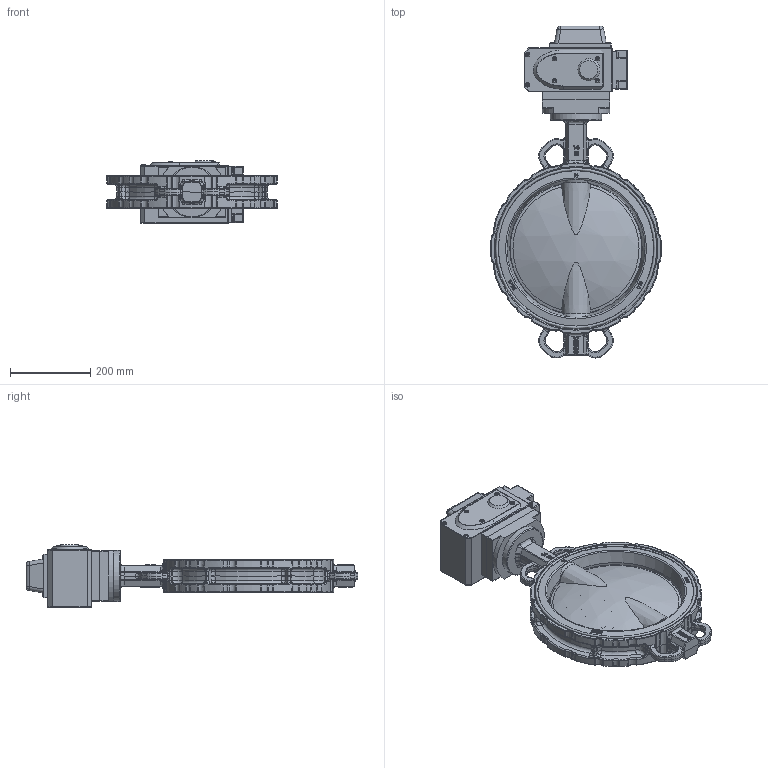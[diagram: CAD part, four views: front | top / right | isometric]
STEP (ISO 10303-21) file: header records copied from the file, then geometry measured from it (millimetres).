
FILE_DESCRIPTION(/* description */ (''),/* implementation_level */ '2;1');
FILE_NAME(/* name */ 'RSV81A220_380-DN350.stp',/* time_stamp */ '2024-08-20T14:07:37+07:00',/* author */ ('Eva'),/* organization */ (''),/* preprocessor_version */ 'ST-DEVELOPER v20',/* originating_system */ 'Autodesk Inventor 2025',/* authorisation */ '');
FILE_SCHEMA (('AUTOMOTIVE_DESIGN { 1 0 10303 214 3 1 1 }'));
Products named in the file (26): RSV81A220_380-DN350; AРН14; DN350·§Чщ; DN350·§°е2; Рѕ°ф; DN350·§°еНј; ЦчЅо1; ЦчЅо2; ЦчЅо3; ІаЦчЅо1; ІаЦчЅо1_1; ЦчЅо4; ЦчЅо5; ё±Ѕо1; ё±Ѕо2; ё±Ѕо3; ё±Ѕо4; ё±Ѕо5; Бгјю25; ЦРЦчЅо; ЦРЦчЅо_1; ЦчЅо6; ё±Ѕо7; ё±Ѕо7_1; ё±Ѕо8; ѕ«РЎРНµзЧ°
Assembly tree (26 placements, depth 3):
  RSV81A220_380-DN350
    AРН14
    DN350·§Чщ
    DN350·§°е2
      DN350·§°еНј  x2
      Рѕ°ф
      ЦчЅо1
      ЦчЅо2
      ЦчЅо3
      ІаЦчЅо1
      ІаЦчЅо1_1
      ЦчЅо4
      ЦчЅо5
      ё±Ѕо1
      ё±Ѕо2
      ё±Ѕо3
      ё±Ѕо4
      ё±Ѕо5
      Бгјю25
      ЦРЦчЅо
      ЦРЦчЅо_1
      ЦчЅо6
      ё±Ѕо7
      ё±Ѕо7_1
      ё±Ѕо8
    ѕ«РЎРНµзЧ°
Bounding box: 425.07 x 825.74 x 156 mm (x, y, z)
Volume: 11868314.1 mm3; surface area: 1794269.7 mm2
Topology: 25 solids, 25 shells, 2671 faces, 6403 edges, 3747 vertices
Faces by surface type: bspline 788, plane 736, cylinder 473, torus 335, cone 233, sphere 106
Full cylindrical faces by diameter (mm): 11.037 x4, 11.059 x6, 11.745 x4, 31.7 x1, 32 x6, 35.1 x1, 42 x1, 50 x13, 127 x1, 354 x2, 386 x2
Entity records: 155034 total; most frequent: CARTESIAN_POINT 97280, ORIENTED_EDGE 12516, DIRECTION 10926, EDGE_CURVE 6258, AXIS2_PLACEMENT_3D 4466, VERTEX_POINT 3725, EDGE_LOOP 2777, FACE_OUTER_BOUND 2656
